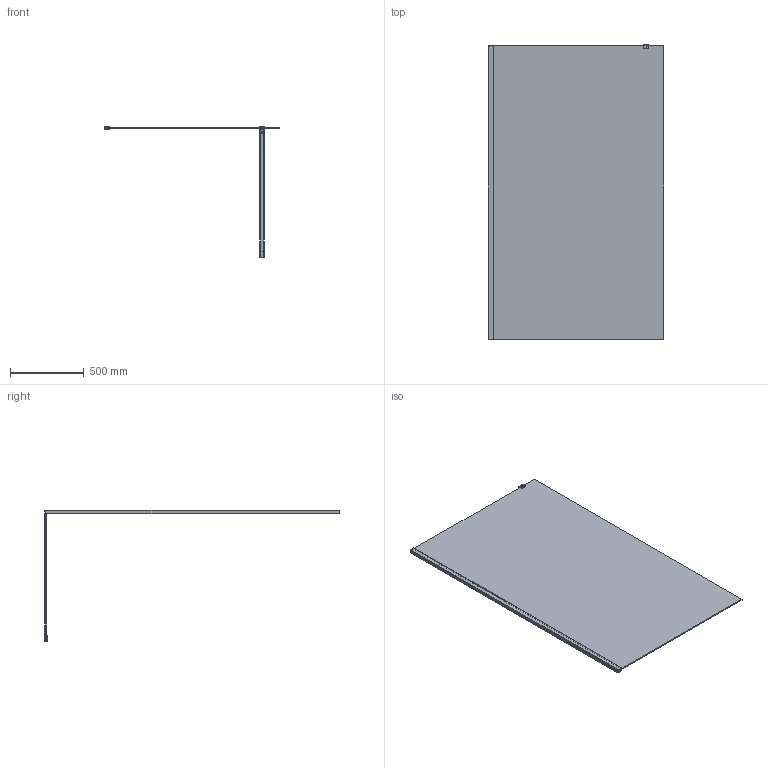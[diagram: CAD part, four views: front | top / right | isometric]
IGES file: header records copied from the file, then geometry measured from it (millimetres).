
Start section: SolidWorks IGES file using analytic representation for surfaces
Bounding box: 1192.3 x 2006.6 x 894.78 mm (x, y, z)
Surface area: 5551664.3 mm2 (no closed solid volume)
Topology: 0 solids, 0 shells, 761 faces, 6353 edges, 6315 vertices
Faces by surface type: revolution 483, bspline 278
